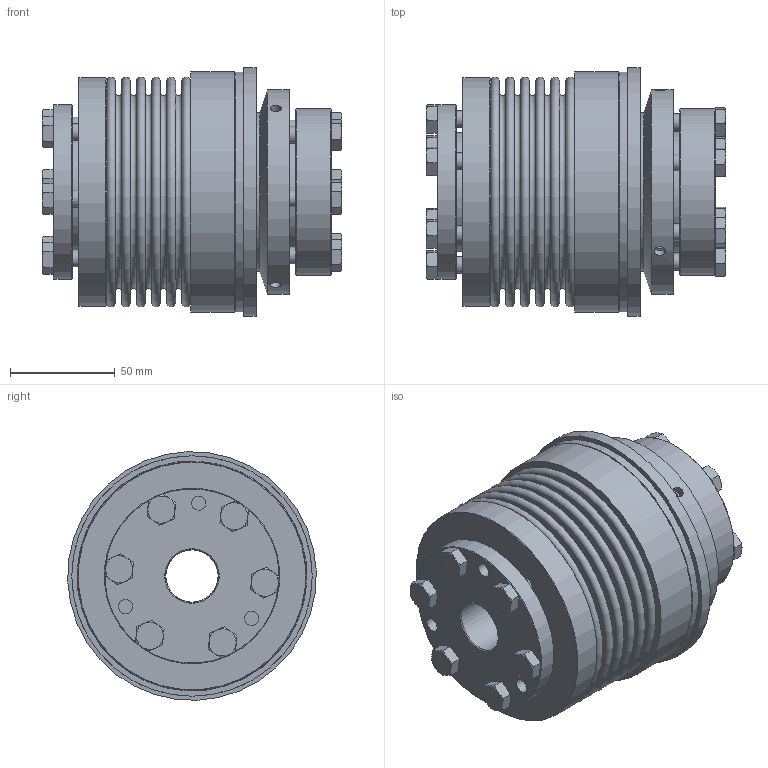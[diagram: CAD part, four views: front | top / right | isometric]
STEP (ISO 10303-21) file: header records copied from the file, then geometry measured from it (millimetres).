
FILE_DESCRIPTION( ( 'Unknown' ), '1' );
FILE_NAME( 'K:/Konstruktion/Korrigierte 3D Modelle/KBK-B-IA/KBK-BIA-300-143.stp', 'Unknown', ( 'Unknown' ), ( 'Unknown' ), 'PSStep 16.0.42', 'Unknown', ' ' );
FILE_SCHEMA( ( 'AUTOMOTIVE_DESIGN { 1 0 10303 214 1 1 1 1 }' ) );
Length unit declared in the file: millimetre
Products named in the file (18): Druckring 300_0; KBK L-A-300 Grundkörper_0; Druckring L-A-300_0; Stellring 300_0; din_en_24017_m8x30_0; BA5-300; Hex Screw GradeC_ISO_ISO 4018 - M8 x 30-NN_2; BA300_Standard_2; KB300_Standard_2; A-300; Assem1; BL300_Standard_0; Flansch BK300
Assembly tree (27 placements, depth 4):
  Assem1
    BL300_Standard_0
    Flansch BK300
    BA5-300
      Hex Screw GradeC_ISO_ISO 4018 - M8 x 30-NN_2  x6
      BA300_Standard_2
      KB300_Standard_2
    A-300
      Stellring 300_0
        Stellring 300_0
      Druckring 300_0
        Druckring 300_0
      KBK L-A-300 Grundkörper_0
        KBK L-A-300 Grundkörper_0
      Druckring L-A-300_0
        Druckring L-A-300_0
      din_en_24017_m8x30_0  x6
        din_en_24017_m8x30_0
Bounding box: 143.35 x 118.91 x 118.91 mm (x, y, z)
Volume: 692740.7 mm3; surface area: 261729.8 mm2
Topology: 20 solids, 20 shells, 418 faces, 867 edges, 550 vertices
Faces by surface type: plane 191, cone 121, cylinder 76, torus 30
Full cylindrical faces by diameter (mm): 3.242 x3, 5.2 x3, 6.647 x6, 6.8 x3, 8 x18, 8.5 x12, 11.63 x6, 25 x2, 52 x1, 55 x2, 57 x1, 57.995 x1, 76 x2, 80 x1, 83.5 x1, 84 x1, 88 x2, 90 x1, 98 x1, 98.5 x1, 99.8 x2, 101 x2, 109.5 x1, 115 x2, 119 x1
Entity records: 7906 total; most frequent: CARTESIAN_POINT 1314, DIRECTION 1028, ORIENTED_EDGE 636, AXIS2_PLACEMENT_3D 490, EDGE_LOOP 442, EDGE_CURVE 318, FACE_OUTER_BOUND 309, VERTEX_POINT 282
